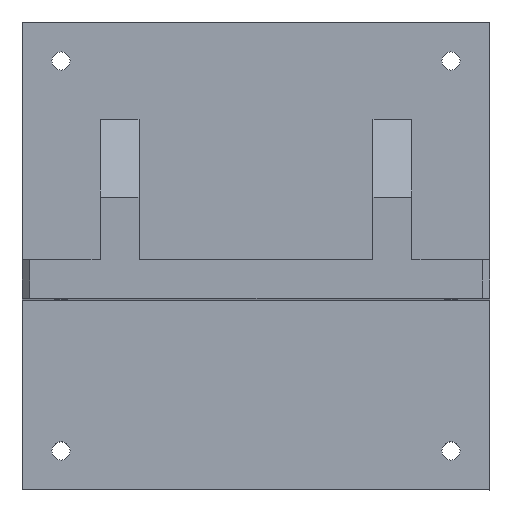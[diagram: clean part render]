
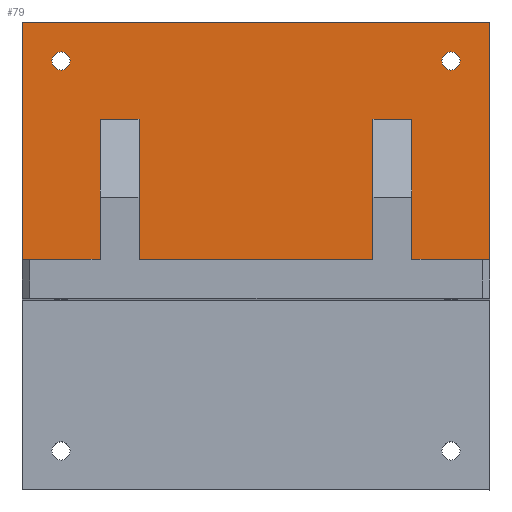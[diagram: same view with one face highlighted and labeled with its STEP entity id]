
A CAD part, top view. The second image highlights one B-rep face of the part: STEP entity #79.
In plain terms, the highlighted planar face has unit normal (0, 0, 1).
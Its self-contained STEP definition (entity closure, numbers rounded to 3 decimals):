
#79 = ADVANCED_FACE( '', ( #145, #146, #147 ), #148, .T. );
#145 = FACE_BOUND( '', #279, .T. );
#146 = FACE_BOUND( '', #280, .T. );
#147 = FACE_OUTER_BOUND( '', #281, .T. );
#148 = PLANE( '', #282 );
#279 = EDGE_LOOP( '', ( #440 ) );
#280 = EDGE_LOOP( '', ( #441 ) );
#281 = EDGE_LOOP( '', ( #442, #443, #444, #445, #446, #447, #448, #449, #450, #451, #452, #453 ) );
#282 = AXIS2_PLACEMENT_3D( '', #454, #455, #456 );
#440 = ORIENTED_EDGE( '', *, *, #737, .T. );
#441 = ORIENTED_EDGE( '', *, *, #738, .T. );
#442 = ORIENTED_EDGE( '', *, *, #729, .F. );
#443 = ORIENTED_EDGE( '', *, *, #697, .T. );
#444 = ORIENTED_EDGE( '', *, *, #739, .F. );
#445 = ORIENTED_EDGE( '', *, *, #740, .T. );
#446 = ORIENTED_EDGE( '', *, *, #741, .T. );
#447 = ORIENTED_EDGE( '', *, *, #742, .T. );
#448 = ORIENTED_EDGE( '', *, *, #743, .F. );
#449 = ORIENTED_EDGE( '', *, *, #744, .T. );
#450 = ORIENTED_EDGE( '', *, *, #745, .T. );
#451 = ORIENTED_EDGE( '', *, *, #746, .T. );
#452 = ORIENTED_EDGE( '', *, *, #747, .F. );
#453 = ORIENTED_EDGE( '', *, *, #734, .F. );
#454 = CARTESIAN_POINT( '', ( 0., 0., 15. ) );
#455 = DIRECTION( '', ( 0., 0., 1. ) );
#456 = DIRECTION( '', ( 0., -1., 0. ) );
#697 = EDGE_CURVE( '', #795, #792, #796, .T. );
#729 = EDGE_CURVE( '', #795, #857, #858, .T. );
#734 = EDGE_CURVE( '', #857, #866, #867, .T. );
#737 = EDGE_CURVE( '', #871, #871, #872, .T. );
#738 = EDGE_CURVE( '', #873, #873, #874, .T. );
#739 = EDGE_CURVE( '', #875, #792, #876, .T. );
#740 = EDGE_CURVE( '', #875, #877, #878, .T. );
#741 = EDGE_CURVE( '', #877, #879, #880, .T. );
#742 = EDGE_CURVE( '', #879, #881, #882, .T. );
#743 = EDGE_CURVE( '', #883, #881, #884, .T. );
#744 = EDGE_CURVE( '', #883, #885, #886, .T. );
#745 = EDGE_CURVE( '', #885, #887, #888, .T. );
#746 = EDGE_CURVE( '', #887, #889, #890, .T. );
#747 = EDGE_CURVE( '', #866, #889, #891, .T. );
#792 = VERTEX_POINT( '', #964 );
#795 = VERTEX_POINT( '', #968 );
#796 = LINE( '', #969, #970 );
#857 = VERTEX_POINT( '', #1041 );
#858 = LINE( '', #1042, #1043 );
#866 = VERTEX_POINT( '', #1055 );
#867 = LINE( '', #1056, #1057 );
#871 = VERTEX_POINT( '', #1063 );
#872 = CIRCLE( '', #1064, 3.5 );
#873 = VERTEX_POINT( '', #1065 );
#874 = CIRCLE( '', #1066, 3.5 );
#875 = VERTEX_POINT( '', #1067 );
#876 = LINE( '', #1068, #1069 );
#877 = VERTEX_POINT( '', #1070 );
#878 = LINE( '', #1071, #1072 );
#879 = VERTEX_POINT( '', #1073 );
#880 = LINE( '', #1074, #1075 );
#881 = VERTEX_POINT( '', #1076 );
#882 = LINE( '', #1077, #1078 );
#883 = VERTEX_POINT( '', #1079 );
#884 = LINE( '', #1080, #1081 );
#885 = VERTEX_POINT( '', #1082 );
#886 = LINE( '', #1083, #1084 );
#887 = VERTEX_POINT( '', #1085 );
#888 = LINE( '', #1086, #1087 );
#889 = VERTEX_POINT( '', #1088 );
#890 = LINE( '', #1089, #1090 );
#891 = LINE( '', #1091, #1092 );
#964 = CARTESIAN_POINT( '', ( -60., -2., 15. ) );
#968 = CARTESIAN_POINT( '', ( -90., -2., 15. ) );
#969 = CARTESIAN_POINT( '', ( 0., -2., 15. ) );
#970 = VECTOR( '', #1197, 1000. );
#1041 = CARTESIAN_POINT( '', ( -90., 90., 15. ) );
#1042 = CARTESIAN_POINT( '', ( -90., 0., 15. ) );
#1043 = VECTOR( '', #1271, 1000. );
#1055 = CARTESIAN_POINT( '', ( 90., 90., 15. ) );
#1056 = CARTESIAN_POINT( '', ( 0., 90., 15. ) );
#1057 = VECTOR( '', #1276, 1000. );
#1063 = CARTESIAN_POINT( '', ( -75., 78.5, 15. ) );
#1064 = AXIS2_PLACEMENT_3D( '', #1279, #1280, #1281 );
#1065 = CARTESIAN_POINT( '', ( 75., 78.5, 15. ) );
#1066 = AXIS2_PLACEMENT_3D( '', #1282, #1283, #1284 );
#1067 = CARTESIAN_POINT( '', ( -60., 52., 15. ) );
#1068 = CARTESIAN_POINT( '', ( -60., 52., 15. ) );
#1069 = VECTOR( '', #1285, 1000. );
#1070 = CARTESIAN_POINT( '', ( -45., 52., 15. ) );
#1071 = CARTESIAN_POINT( '', ( -52.5, 52., 15. ) );
#1072 = VECTOR( '', #1286, 1000. );
#1073 = CARTESIAN_POINT( '', ( -45., -2., 15. ) );
#1074 = CARTESIAN_POINT( '', ( -45., 52., 15. ) );
#1075 = VECTOR( '', #1287, 1000. );
#1076 = CARTESIAN_POINT( '', ( 45., -2., 15. ) );
#1077 = CARTESIAN_POINT( '', ( 0., -2., 15. ) );
#1078 = VECTOR( '', #1288, 1000. );
#1079 = CARTESIAN_POINT( '', ( 45., 52., 15. ) );
#1080 = CARTESIAN_POINT( '', ( 45., 52., 15. ) );
#1081 = VECTOR( '', #1289, 1000. );
#1082 = CARTESIAN_POINT( '', ( 60., 52., 15. ) );
#1083 = CARTESIAN_POINT( '', ( 52.5, 52., 15. ) );
#1084 = VECTOR( '', #1290, 1000. );
#1085 = CARTESIAN_POINT( '', ( 60., -2., 15. ) );
#1086 = CARTESIAN_POINT( '', ( 60., 52., 15. ) );
#1087 = VECTOR( '', #1291, 1000. );
#1088 = CARTESIAN_POINT( '', ( 90., -2., 15. ) );
#1089 = CARTESIAN_POINT( '', ( 0., -2., 15. ) );
#1090 = VECTOR( '', #1292, 1000. );
#1091 = CARTESIAN_POINT( '', ( 90., 0., 15. ) );
#1092 = VECTOR( '', #1293, 1000. );
#1197 = DIRECTION( '', ( 1., 0., 0. ) );
#1271 = DIRECTION( '', ( 0., 1., 0. ) );
#1276 = DIRECTION( '', ( 1., 0., 0. ) );
#1279 = CARTESIAN_POINT( '', ( -75., 75., 15. ) );
#1280 = DIRECTION( '', ( 0., 0., -1. ) );
#1281 = DIRECTION( '', ( 0., 1., 0. ) );
#1282 = CARTESIAN_POINT( '', ( 75., 75., 15. ) );
#1283 = DIRECTION( '', ( 0., 0., -1. ) );
#1284 = DIRECTION( '', ( 0., 1., 0. ) );
#1285 = DIRECTION( '', ( 0., -1., 0. ) );
#1286 = DIRECTION( '', ( 1., 0., 0. ) );
#1287 = DIRECTION( '', ( 0., -1., 0. ) );
#1288 = DIRECTION( '', ( 1., 0., 0. ) );
#1289 = DIRECTION( '', ( 0., -1., 0. ) );
#1290 = DIRECTION( '', ( 1., 0., 0. ) );
#1291 = DIRECTION( '', ( 0., -1., 0. ) );
#1292 = DIRECTION( '', ( 1., 0., 0. ) );
#1293 = DIRECTION( '', ( 0., -1., 0. ) );
